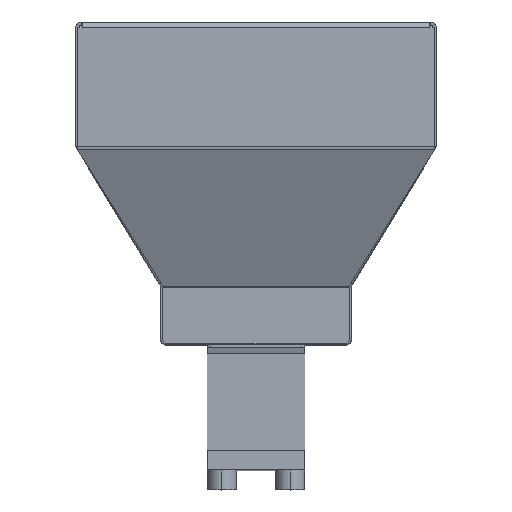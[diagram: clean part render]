
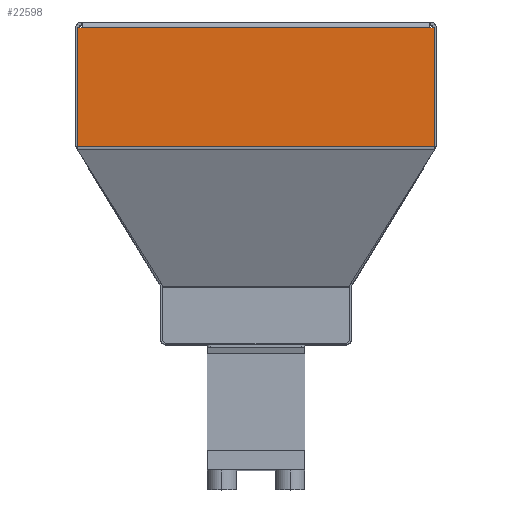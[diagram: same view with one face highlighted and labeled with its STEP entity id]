
A CAD part, top view. The second image highlights one B-rep face of the part: STEP entity #22598.
In plain terms, the highlighted planar face has unit normal (0, 0, 1) as drawn and (-1, 0, 0) by its records, which use the part's own axes.
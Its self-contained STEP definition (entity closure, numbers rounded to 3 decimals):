
#1038 = VERTEX_POINT ( 'NONE', #32405 ) ;
#1151 = EDGE_CURVE ( 'NONE', #1038, #10259, #28599, .T. ) ;
#1421 = CARTESIAN_POINT ( 'NONE',  ( -621., 327.559, 373.5 ) ) ;
#4411 = DIRECTION ( 'NONE',  ( 0., 0., -1. ) ) ;
#4918 = DIRECTION ( 'NONE',  ( 0., 1., 0. ) ) ;
#5626 = LINE ( 'NONE', #32168, #16515 ) ;
#5930 = VERTEX_POINT ( 'NONE', #39541 ) ;
#9235 = PLANE ( 'NONE',  #43684 ) ;
#10259 = VERTEX_POINT ( 'NONE', #1421 ) ;
#11589 = CARTESIAN_POINT ( 'NONE',  ( -621., 202.674, 373.5 ) ) ;
#13734 = VECTOR ( 'NONE', #38010, 1000. ) ;
#14006 = DIRECTION ( 'NONE',  ( 0., 0., 1. ) ) ;
#14867 = EDGE_CURVE ( 'NONE', #5930, #41733, #5626, .T. ) ;
#16102 = CARTESIAN_POINT ( 'NONE',  ( -621., 327.559, 380. ) ) ;
#16500 = VECTOR ( 'NONE', #30353, 1000. ) ;
#16515 = VECTOR ( 'NONE', #14006, 1000. ) ;
#19453 = VECTOR ( 'NONE', #4918, 1000. ) ;
#20890 = VECTOR ( 'NONE', #4411, 1000. ) ;
#22572 = EDGE_LOOP ( 'NONE', ( #22975, #46789, #37288, #32919, #42071, #46542 ) ) ;
#22598 = ADVANCED_FACE ( 'NONE', ( #38633 ), #9235, .T. ) ;
#22975 = ORIENTED_EDGE ( 'NONE', *, *, #1151, .T. ) ;
#23984 = CARTESIAN_POINT ( 'NONE',  ( -621., 327.559, 368.5 ) ) ;
#24337 = EDGE_CURVE ( 'NONE', #44164, #41733, #40942, .T. ) ;
#27914 = CARTESIAN_POINT ( 'NONE',  ( -621., 327.559, 11.5 ) ) ;
#28429 = CARTESIAN_POINT ( 'NONE',  ( -621., 205.23, 380. ) ) ;
#28569 = VERTEX_POINT ( 'NONE', #39730 ) ;
#28599 = LINE ( 'NONE', #11589, #19453 ) ;
#30068 = CARTESIAN_POINT ( 'NONE',  ( -621., 327.559, 380. ) ) ;
#30084 = EDGE_CURVE ( 'NONE', #5930, #28569, #46808, .T. ) ;
#30353 = DIRECTION ( 'NONE',  ( 0., -1., 0. ) ) ;
#31270 = EDGE_CURVE ( 'NONE', #1038, #28569, #39913, .T. ) ;
#32168 = CARTESIAN_POINT ( 'NONE',  ( -621., 327.559, 11.5 ) ) ;
#32405 = CARTESIAN_POINT ( 'NONE',  ( -621., 205.23, 373.5 ) ) ;
#32919 = ORIENTED_EDGE ( 'NONE', *, *, #14867, .F. ) ;
#33117 = LINE ( 'NONE', #30068, #13734 ) ;
#34172 = VECTOR ( 'NONE', #39430, 1000. ) ;
#35555 = DIRECTION ( 'NONE',  ( 0., 0., 1. ) ) ;
#37288 = ORIENTED_EDGE ( 'NONE', *, *, #24337, .T. ) ;
#38010 = DIRECTION ( 'NONE',  ( 0., 0., -1. ) ) ;
#38633 = FACE_OUTER_BOUND ( 'NONE', #22572, .T. ) ;
#39231 = DIRECTION ( 'NONE',  ( -1., 0., 0. ) ) ;
#39430 = DIRECTION ( 'NONE',  ( 0., 0., -1. ) ) ;
#39541 = CARTESIAN_POINT ( 'NONE',  ( -621., 327.559, 6.5 ) ) ;
#39730 = CARTESIAN_POINT ( 'NONE',  ( -621., 205.23, 6.5 ) ) ;
#39913 = LINE ( 'NONE', #28429, #34172 ) ;
#40942 = LINE ( 'NONE', #16102, #20890 ) ;
#41733 = VERTEX_POINT ( 'NONE', #27914 ) ;
#41997 = CARTESIAN_POINT ( 'NONE',  ( -621., 204.559, 380. ) ) ;
#42071 = ORIENTED_EDGE ( 'NONE', *, *, #30084, .T. ) ;
#43684 = AXIS2_PLACEMENT_3D ( 'NONE', #41997, #39231, #35555 ) ;
#44164 = VERTEX_POINT ( 'NONE', #23984 ) ;
#45271 = CARTESIAN_POINT ( 'NONE',  ( -621., 202.674, 6.5 ) ) ;
#46542 = ORIENTED_EDGE ( 'NONE', *, *, #31270, .F. ) ;
#46789 = ORIENTED_EDGE ( 'NONE', *, *, #47445, .T. ) ;
#46808 = LINE ( 'NONE', #45271, #16500 ) ;
#47445 = EDGE_CURVE ( 'NONE', #10259, #44164, #33117, .T. ) ;
